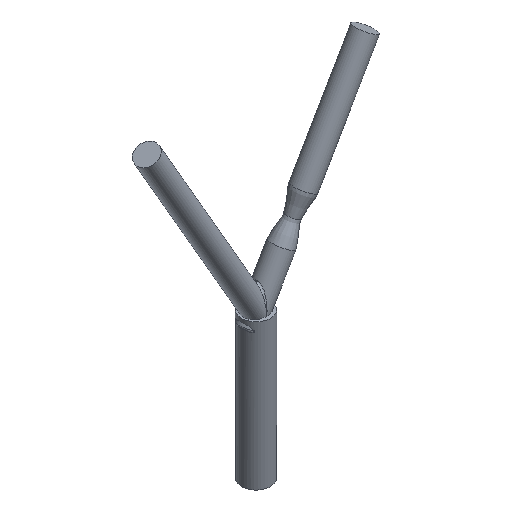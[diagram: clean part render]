
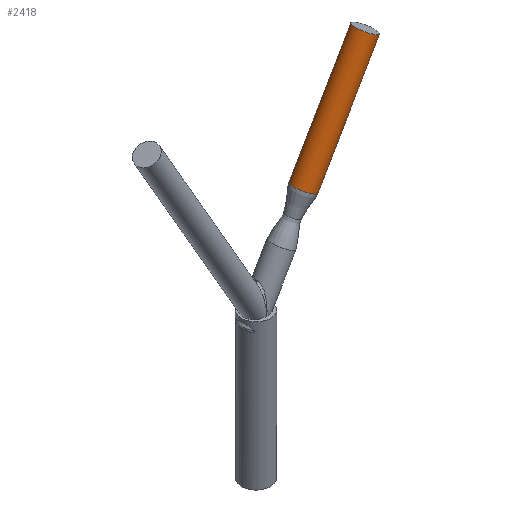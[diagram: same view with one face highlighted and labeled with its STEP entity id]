
A CAD part, isometric view. The second image highlights one B-rep face of the part: STEP entity #2418.
In plain terms, the highlighted cylindrical face has radius 3 mm (diameter 6 mm), a full revolution.
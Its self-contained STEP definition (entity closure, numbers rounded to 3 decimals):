
#2342 = SURFACE_OF_REVOLUTION('',#2343,#2348);
#2343 = B_SPLINE_CURVE_WITH_KNOTS('',3,(#2344,#2345,#2346,#2347),
  .UNSPECIFIED.,.F.,.F.,(4,4),(0.,1.),.PIECEWISE_BEZIER_KNOTS.);
#2344 = CARTESIAN_POINT('',(11.559,0.,56.421));
#2345 = CARTESIAN_POINT('',(12.559,0.,58.153));
#2346 = CARTESIAN_POINT('',(14.598,0.,59.285));
#2347 = CARTESIAN_POINT('',(15.598,0.,61.017));
#2348 = AXIS1_PLACEMENT('',#2349,#2350);
#2349 = CARTESIAN_POINT('',(-2.,0.,36.536));
#2350 = DIRECTION('',(0.5,0.,0.866));
#2368 = VERTEX_POINT('',#2369);
#2369 = CARTESIAN_POINT('',(15.598,0.,61.017));
#2391 = EDGE_CURVE('',#2368,#2368,#2392,.T.);
#2392 = SURFACE_CURVE('',#2393,(#2398,#2405),.PCURVE_S1.);
#2393 = CIRCLE('',#2394,3.);
#2394 = AXIS2_PLACEMENT_3D('',#2395,#2396,#2397);
#2395 = CARTESIAN_POINT('',(13.,0.,62.517));
#2396 = DIRECTION('',(0.5,-0.,0.866));
#2397 = DIRECTION('',(0.866,0.,-0.5));
#2398 = PCURVE('',#2342,#2399);
#2399 = DEFINITIONAL_REPRESENTATION('',(#2400),#2404);
#2400 = LINE('',#2401,#2402);
#2401 = CARTESIAN_POINT('',(0.,1.));
#2402 = VECTOR('',#2403,1.);
#2403 = DIRECTION('',(1.,0.));
#2404 = ( GEOMETRIC_REPRESENTATION_CONTEXT(2) 
PARAMETRIC_REPRESENTATION_CONTEXT() REPRESENTATION_CONTEXT('2D SPACE',''
  ) );
#2405 = PCURVE('',#2406,#2411);
#2406 = CYLINDRICAL_SURFACE('',#2407,3.);
#2407 = AXIS2_PLACEMENT_3D('',#2408,#2409,#2410);
#2408 = CARTESIAN_POINT('',(13.,0.,62.517));
#2409 = DIRECTION('',(0.5,0.,0.866));
#2410 = DIRECTION('',(0.866,0.,-0.5));
#2411 = DEFINITIONAL_REPRESENTATION('',(#2412),#2416);
#2412 = LINE('',#2413,#2414);
#2413 = CARTESIAN_POINT('',(0.,0.));
#2414 = VECTOR('',#2415,1.);
#2415 = DIRECTION('',(1.,0.));
#2416 = ( GEOMETRIC_REPRESENTATION_CONTEXT(2) 
PARAMETRIC_REPRESENTATION_CONTEXT() REPRESENTATION_CONTEXT('2D SPACE',''
  ) );
#2418 = ADVANCED_FACE('',(#2419),#2406,.T.);
#2419 = FACE_BOUND('',#2420,.T.);
#2420 = EDGE_LOOP('',(#2421,#2422,#2445,#2472));
#2421 = ORIENTED_EDGE('',*,*,#2391,.T.);
#2422 = ORIENTED_EDGE('',*,*,#2423,.T.);
#2423 = EDGE_CURVE('',#2368,#2424,#2426,.T.);
#2424 = VERTEX_POINT('',#2425);
#2425 = CARTESIAN_POINT('',(32.598,0.,90.462));
#2426 = SEAM_CURVE('',#2427,(#2431,#2438),.PCURVE_S1.);
#2427 = LINE('',#2428,#2429);
#2428 = CARTESIAN_POINT('',(15.598,0.,61.017));
#2429 = VECTOR('',#2430,1.);
#2430 = DIRECTION('',(0.5,0.,0.866));
#2431 = PCURVE('',#2406,#2432);
#2432 = DEFINITIONAL_REPRESENTATION('',(#2433),#2437);
#2433 = LINE('',#2434,#2435);
#2434 = CARTESIAN_POINT('',(0.,0.));
#2435 = VECTOR('',#2436,1.);
#2436 = DIRECTION('',(0.,1.));
#2437 = ( GEOMETRIC_REPRESENTATION_CONTEXT(2) 
PARAMETRIC_REPRESENTATION_CONTEXT() REPRESENTATION_CONTEXT('2D SPACE',''
  ) );
#2438 = PCURVE('',#2406,#2439);
#2439 = DEFINITIONAL_REPRESENTATION('',(#2440),#2444);
#2440 = LINE('',#2441,#2442);
#2441 = CARTESIAN_POINT('',(6.283,0.));
#2442 = VECTOR('',#2443,1.);
#2443 = DIRECTION('',(0.,1.));
#2444 = ( GEOMETRIC_REPRESENTATION_CONTEXT(2) 
PARAMETRIC_REPRESENTATION_CONTEXT() REPRESENTATION_CONTEXT('2D SPACE',''
  ) );
#2445 = ORIENTED_EDGE('',*,*,#2446,.F.);
#2446 = EDGE_CURVE('',#2424,#2424,#2447,.T.);
#2447 = SURFACE_CURVE('',#2448,(#2453,#2460),.PCURVE_S1.);
#2448 = CIRCLE('',#2449,3.);
#2449 = AXIS2_PLACEMENT_3D('',#2450,#2451,#2452);
#2450 = CARTESIAN_POINT('',(30.,0.,91.962));
#2451 = DIRECTION('',(0.5,-0.,0.866));
#2452 = DIRECTION('',(0.866,0.,-0.5));
#2453 = PCURVE('',#2406,#2454);
#2454 = DEFINITIONAL_REPRESENTATION('',(#2455),#2459);
#2455 = LINE('',#2456,#2457);
#2456 = CARTESIAN_POINT('',(0.,34.));
#2457 = VECTOR('',#2458,1.);
#2458 = DIRECTION('',(1.,0.));
#2459 = ( GEOMETRIC_REPRESENTATION_CONTEXT(2) 
PARAMETRIC_REPRESENTATION_CONTEXT() REPRESENTATION_CONTEXT('2D SPACE',''
  ) );
#2460 = PCURVE('',#2461,#2466);
#2461 = PLANE('',#2462);
#2462 = AXIS2_PLACEMENT_3D('',#2463,#2464,#2465);
#2463 = CARTESIAN_POINT('',(30.,0.,91.962));
#2464 = DIRECTION('',(0.5,0.,0.866));
#2465 = DIRECTION('',(0.866,0.,-0.5));
#2466 = DEFINITIONAL_REPRESENTATION('',(#2467),#2471);
#2467 = CIRCLE('',#2468,3.);
#2468 = AXIS2_PLACEMENT_2D('',#2469,#2470);
#2469 = CARTESIAN_POINT('',(0.,0.));
#2470 = DIRECTION('',(1.,0.));
#2471 = ( GEOMETRIC_REPRESENTATION_CONTEXT(2) 
PARAMETRIC_REPRESENTATION_CONTEXT() REPRESENTATION_CONTEXT('2D SPACE',''
  ) );
#2472 = ORIENTED_EDGE('',*,*,#2423,.F.);
